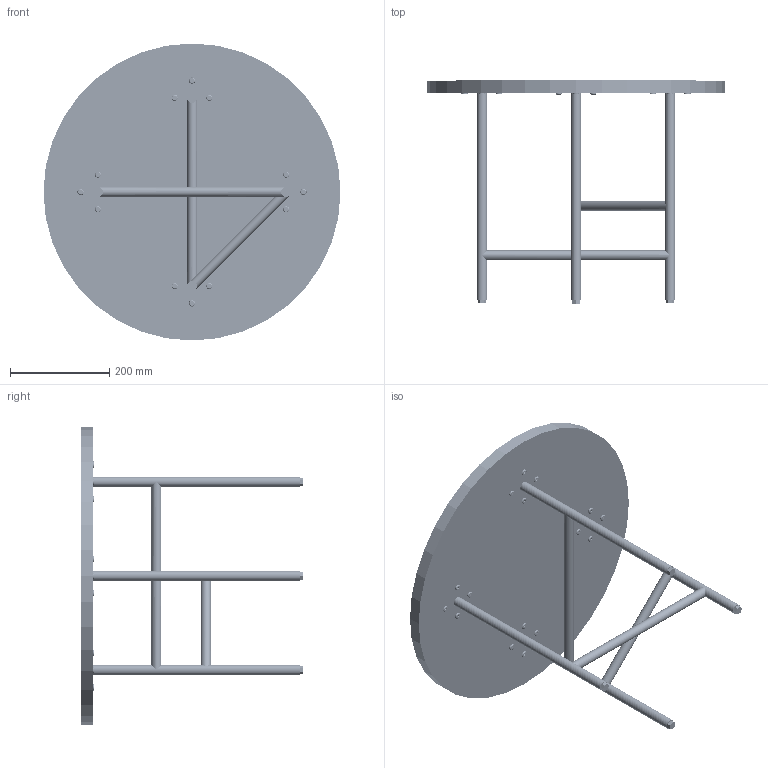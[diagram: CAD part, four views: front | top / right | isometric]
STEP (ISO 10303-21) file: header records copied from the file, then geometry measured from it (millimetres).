
FILE_DESCRIPTION (( 'STEP AP214' ), '1' );
FILE_NAME ('Step- Up Table - D600XH450.STEP', '2024-04-05T05:39:58', ( '' ), ( '' ), 'SwSTEP 2.0', 'SolidWorks 2023', '' );
FILE_SCHEMA (( 'AUTOMOTIVE_DESIGN' ));
Length unit declared in the file: millimetre
Products named in the file (6): M6x16MM Flate head allen Bolt; Wooden Top; Wood insert nut_M6; Metal Frame_Default<As Machined>; M6x20MM Hex Leveller; Step- Up Table - D600XH450
Assembly tree (38 placements, depth 2):
  Step- Up Table - D600XH450
    Metal Frame_Default<As Machined>
    Wooden Top
    M6x16MM Flate head allen Bolt  x16
    M6x20MM Hex Leveller  x4
    Wood insert nut_M6  x16
Bounding box: 600 x 450 x 600 mm (x, y, z)
Volume: 7466590.1 mm3; surface area: 996609.4 mm2
Topology: 52 solids, 52 shells, 1980 faces, 5083 edges, 3262 vertices
Faces by surface type: cylinder 1182, plane 518, torus 124, bspline 92, cone 64
Entity records: 17377 total; most frequent: CARTESIAN_POINT 9093, ORIENTED_EDGE 1640, DIRECTION 1639, EDGE_CURVE 820, AXIS2_PLACEMENT_3D 668, VERTEX_POINT 538, EDGE_LOOP 424, ADVANCED_FACE 342
